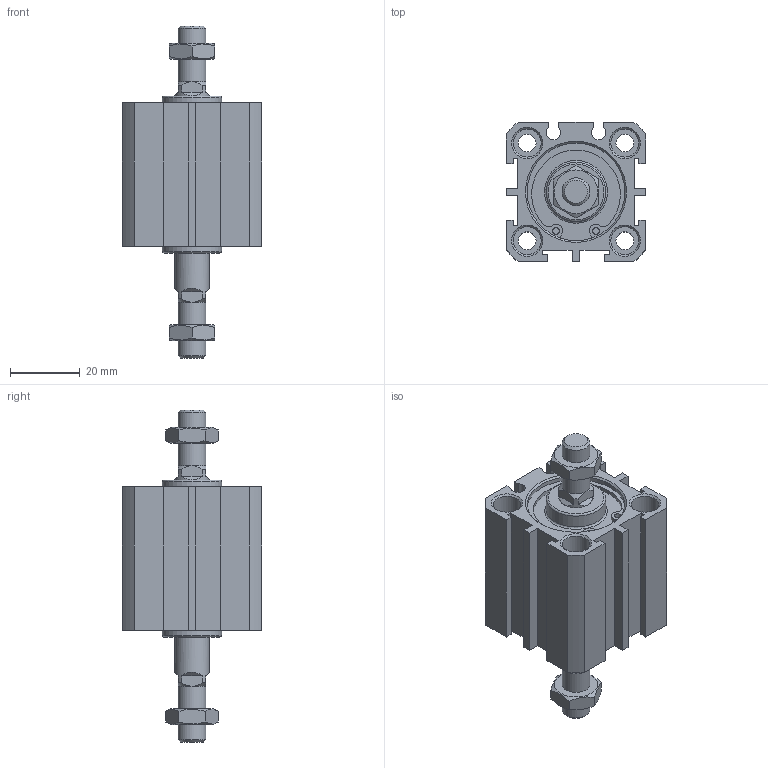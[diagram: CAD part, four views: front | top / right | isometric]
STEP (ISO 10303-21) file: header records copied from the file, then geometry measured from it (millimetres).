
FILE_DESCRIPTION((''),'2;1');
FILE_NAME('I:\3D電子目錄\氣缸\JDD\JDD-BS\JDD25-BS\JDD25x10-BS.stp','2007-02-27T13:43:49',('662F206'),(''),'Autodesk Inventor 10','Autodesk Inventor 10','');
FILE_SCHEMA(('AUTOMOTIVE_DESIGN { 1 0 10303 214 1 1 1 1 }'));
Length unit declared in the file: millimetre
Products named in the file (3): JDD25-BS; R 形環 28
Assembly tree (3 placements, depth 2):
  JDD25-BS
    JDD25-BS
    R 形環 28  x2
Bounding box: 40 x 40 x 95.2 mm (x, y, z)
Volume: 54784.7 mm3; surface area: 19593.7 mm2
Topology: 3 solids, 3 shells, 192 faces, 454 edges, 294 vertices
Faces by surface type: plane 108, cylinder 50, cone 26, bspline 6, torus 2
Full cylindrical faces by diameter (mm): 1.5 x2, 1.9 x4, 5.1 x4, 8 x12, 10 x2, 17 x2, 28 x4, 29.4 x2
Entity records: 4989 total; most frequent: CARTESIAN_POINT 1022, DIRECTION 812, ORIENTED_EDGE 724, EDGE_CURVE 362, AXIS2_PLACEMENT_3D 310, EDGE_LOOP 272, VERTEX_POINT 266, VECTOR 192
